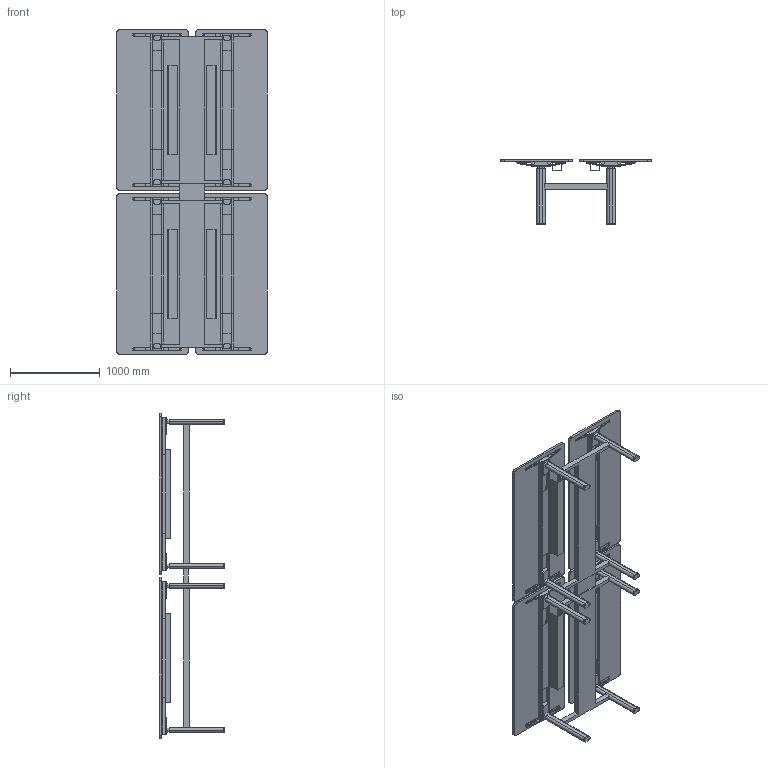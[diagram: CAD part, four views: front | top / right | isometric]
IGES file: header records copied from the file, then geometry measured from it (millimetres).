
Start section: SolidWorks IGES file using analytic representation for surfaces
Global section: file name: C:\Users\simone.cerana\OneDrive - Gruppo Tecno\Desktop\CHINA\DISEGNI DI SERIE\ASSIEMI LISTINO\AXIS LISTINO\FULL OPT\AX3616FO.IGS; native system: SolidWorks 2024; preprocessor: SolidWorks 2024; author: simone.cerana; date: 260512.115334; units: millimetre
Bounding box: 1680 x 730.14 x 3630 mm (x, y, z)
Surface area: 21568038 mm2 (no closed solid volume)
Topology: 0 solids, 0 shells, 1246 faces, 13976 edges, 13960 vertices
Faces by surface type: bspline 670, revolution 576
